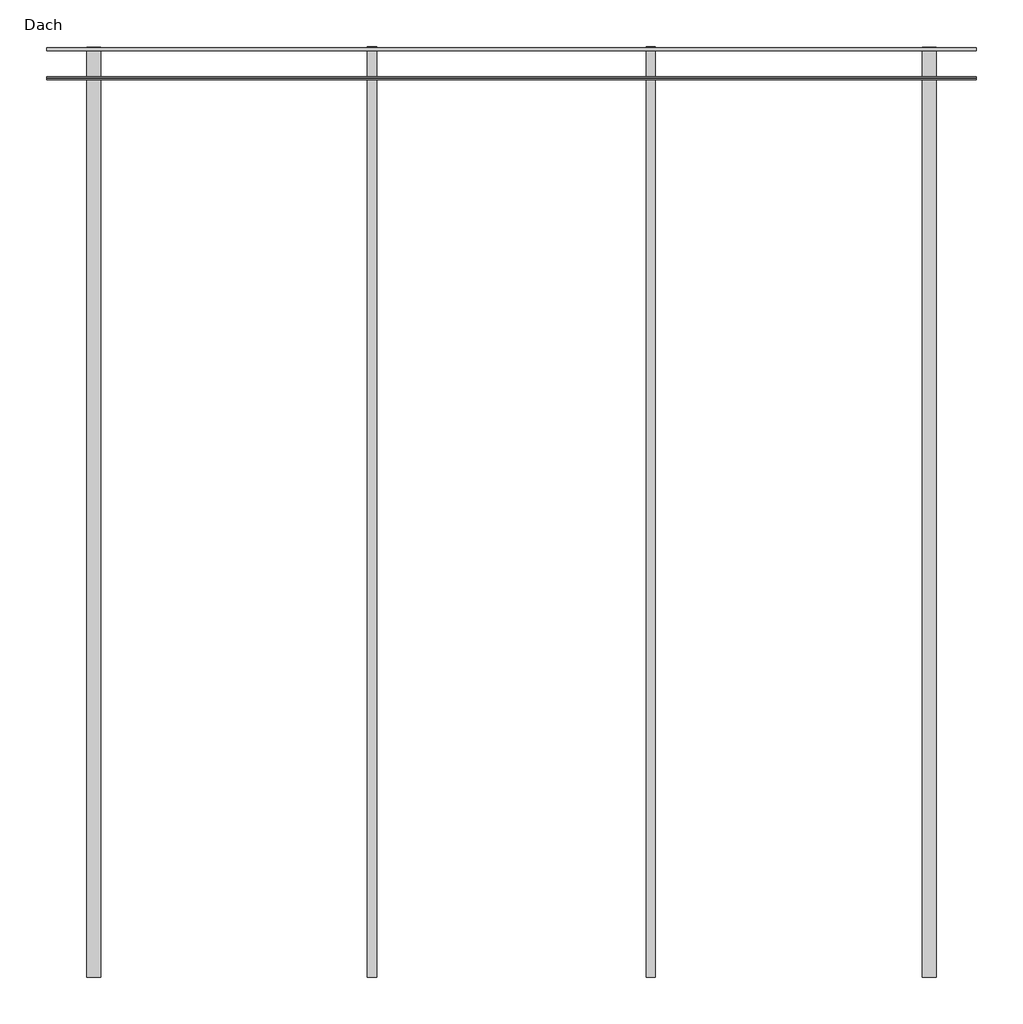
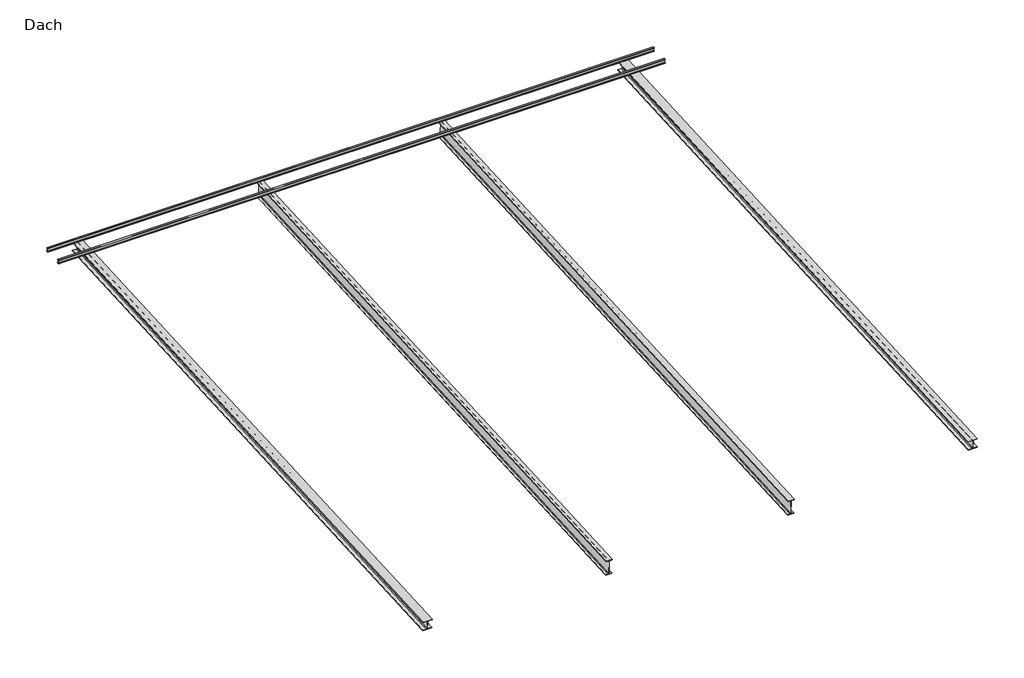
# One storey: 6 beams.
"""IFC4 building model written with IfcOpenShell, lengths in millimetres."""

from ifc_helpers import new_model, si_unit, origin, place, context, project, spatial, transform, mapped, element, save
from components import hea_320_9a9b97b3, ipe120_4a8aa1c4, ipe500_92aa9560

model = new_model("IFC4")

# Units and contexts
model_context = context("Model", 3, world=origin())
ifc_project = project(units=[si_unit("LENGTHUNIT", "METRE", prefix="MILLI")], contexts=[model_context])

# Site, building, storey
site = spatial("IfcSite", under=ifc_project)
building = spatial("IfcBuilding", under=site)
storey = spatial("IfcBuildingStorey", under=building, Name="Dach", Elevation=9000.0)

# Beams
placement = place(None, origin())
hea_320_shape = hea_320_9a9b97b3(model_context)
element("IfcBeam", 1, ObjectType="HE-A-Balken : HEA 320", at=placement, inside=storey, context=model_context, shape_type="MappedRepresentation", body=[
    mapped(hea_320_shape, transform((-8741.8279477, 861.7297176, 8345.2386453), x_axis=(0.0, -0.9984603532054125, -0.05547001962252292), y_axis=(1.0, 0.0, 0.0), z_axis=(0.0, -0.05547001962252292, 0.9984603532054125))),
])
element("IfcBeam", 2, ObjectType="HE-A-Balken : HEA 320", at=placement, inside=storey, context=model_context, shape_type="MappedRepresentation", body=[
    mapped(hea_320_shape, transform((9258.1720523, 861.7297176, 8345.2386453), x_axis=(0.0, -0.9984603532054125, -0.05547001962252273), y_axis=(1.0, 0.0, 0.0), z_axis=(0.0, -0.05547001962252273, 0.9984603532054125))),
])
ipe120_shape = ipe120_4a8aa1c4(model_context)
element("IfcBeam", 3, ObjectType="IPE-Balken : IPE120", at=placement, inside=storey, context=model_context, shape_type="MappedRepresentation", body=[
    mapped(ipe120_shape, transform((258.1720523, 10834.4071955, 9114.6078174), x_axis=(1.0, 0.0, 0.0), y_axis=(0.0, 0.9984603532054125, 0.05547001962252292), z_axis=(0.0, -0.05547001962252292, 0.9984603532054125))),
])
element("IfcBeam", 4, ObjectType="IPE-Balken : IPE120", at=placement, inside=storey, context=model_context, shape_type="MappedRepresentation", body=[
    mapped(ipe120_shape, transform((258.1720523, 10210.3694747, 9079.9390552), x_axis=(1.0, 0.0, 0.0), y_axis=(0.0, 0.9984603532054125, 0.05547001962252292), z_axis=(0.0, -0.05547001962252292, 0.9984603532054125))),
])
ipe500_shape = ipe500_92aa9560(model_context)
element("IfcBeam", 5, ObjectType="IPE-Balken : IPE500", at=placement, inside=storey, context=model_context, shape_type="MappedRepresentation", body=[
    mapped(ipe500_shape, transform((-2741.8279477, 866.9993695, 8250.3849117), x_axis=(0.0, -0.9984603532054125, -0.05547001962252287), y_axis=(1.0, 0.0, 0.0), z_axis=(0.0, -0.05547001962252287, 0.9984603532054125))),
])
element("IfcBeam", 6, ObjectType="IPE-Balken : IPE500", at=placement, inside=storey, context=model_context, shape_type="MappedRepresentation", body=[
    mapped(ipe500_shape, transform((3258.1720523, 866.9993695, 8250.3849117), x_axis=(0.0, -0.9984603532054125, -0.05547001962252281), y_axis=(1.0, 0.0, 0.0), z_axis=(0.0, -0.05547001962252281, 0.9984603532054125))),
])

save(model, "model.ifc")
